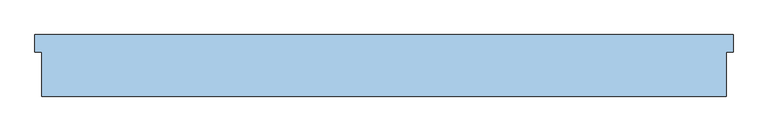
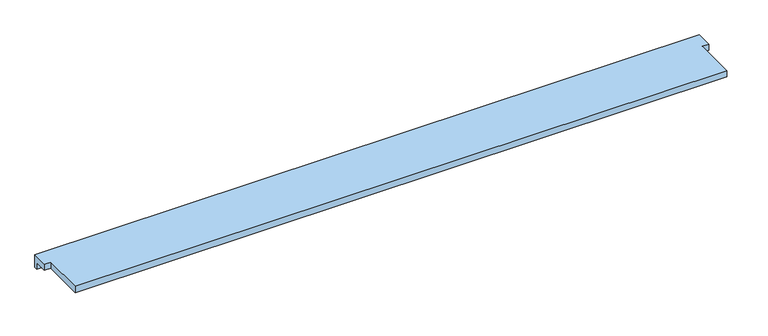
"""IFC4 building model written with IfcOpenShell, lengths in millimetres: window geometry, В2В_Подоконник_ПВХ : ОК 3."""

from ifc_helpers import new_model, si_unit, origin, place, context, project, spatial, faceted_brep, source, transform, mapped, element, save


def window_8f4e7b66(model_context):
    return source(origin(), model_context, "Body", "Brep", [
        faceted_brep([(1000.0, 0.0, 0.0), (1000.0, 130.0, 0.0), (1000.0, 130.0, 20.0), (1000.0, 0.0, 20.0), (-1000.0, 0.0, 0.0), (-1000.0, 0.0, 20.0), (-1000.0, 130.0, 20.0), (-1000.0, 130.0, 0.0), (1020.0, 130.0, 20.0), (1020.0, 180.0, 20.0), (-1020.0, 180.0, 20.0), (-1020.0, 130.0, 20.0), (-1020.0, 130.0, 0.0), (-1020.0, 170.0, 0.0), (1020.0, 170.0, 0.0), (1020.0, 130.0, 0.0), (1020.0, 170.0, -20.0), (1020.0, 180.0, -20.0), (-1020.0, 180.0, -20.0), (-1020.0, 170.0, -20.0)], [[[0, 1, 2, 3]], [[4, 5, 6, 7]], [[3, 5, 4, 0]], [[2, 8, 9, 10, 11, 6, 5, 3]], [[0, 4, 7, 12, 13, 14, 15, 1]], [[15, 14, 16, 17, 9, 8]], [[12, 11, 10, 18, 19, 13]], [[8, 2, 1, 15]], [[12, 7, 6, 11]], [[17, 18, 10, 9]], [[16, 19, 18, 17]], [[14, 13, 19, 16]]]),
    ])


if __name__ == "__main__":
    model = new_model("IFC4")
    model_context = context("Model", 3, world=origin())
    ifc_project = project(units=[si_unit("LENGTHUNIT", "METRE", prefix="MILLI")], contexts=[model_context])
    site = spatial("IfcSite", under=ifc_project)
    building = spatial("IfcBuilding", under=site)
    placement = place(None, origin())
    window_shape = window_8f4e7b66(model_context)
    element("IfcWindow", 1, ObjectType="В2В_Подоконник_ПВХ : ОК 3", at=placement, inside=building, context=model_context, shape_type="MappedRepresentation", body=[
        mapped(window_shape, transform((0.0, 0.0, 0.0), x_axis=(1.0, 0.0, 0.0), y_axis=(0.0, 1.0, 0.0), z_axis=(0.0, 0.0, 1.0))),
    ])
    save(model, "model.ifc")
